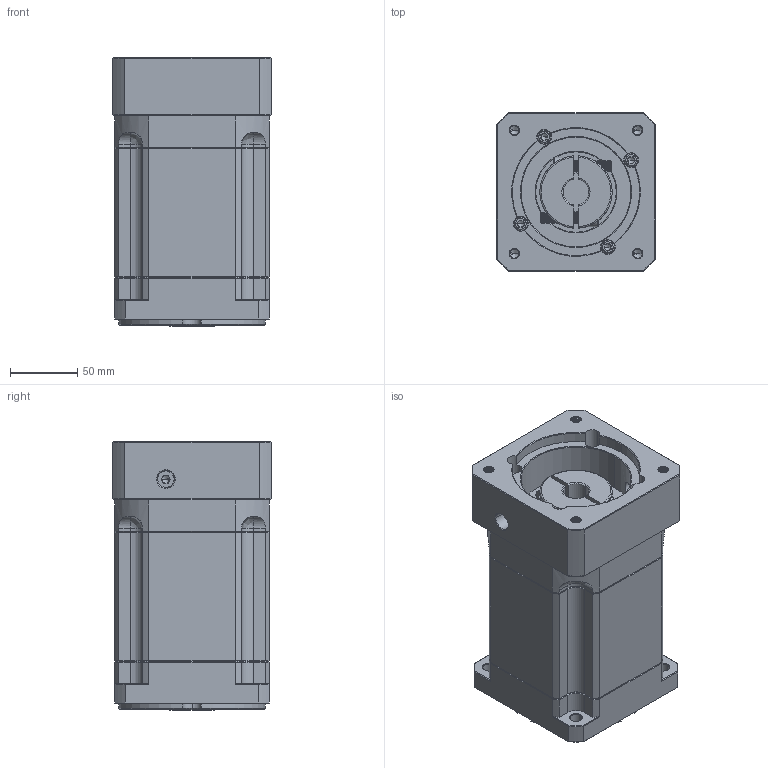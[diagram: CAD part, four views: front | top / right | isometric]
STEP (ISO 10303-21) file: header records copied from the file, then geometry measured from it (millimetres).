
FILE_DESCRIPTION (( 'STEP AP214' ), '1' );
FILE_NAME ('ZB115A-K25-L3-19-95-130-M8.step', '2023-03-02T09:05:48', ( '' ), ( 'Microsoft' ), 'SwSTEP 2.0', 'SolidWorks 2016', '' );
FILE_SCHEMA (( 'AUTOMOTIVE_DESIGN' ));
Length unit declared in the file: millimetre
Products named in the file (1): ZB115A-K25-L3-19-95-130-M8
Bounding box: 118 x 118 x 200.5 mm (x, y, z)
Volume: 2179319.9 mm3; surface area: 191566.3 mm2
Topology: 6 solids, 6 shells, 2069 faces, 5358 edges, 3380 vertices
Faces by surface type: plane 957, cylinder 411, cone 365, bspline 316, torus 20
Entity records: 108276 total; most frequent: CARTESIAN_POINT 37660, ORIENTED_EDGE 10652, DIRECTION 8793, EDGE_CURVE 5326, VERTEX_POINT 3380, LINE 3329, VECTOR 3329, AXIS2_PLACEMENT_3D 2732
